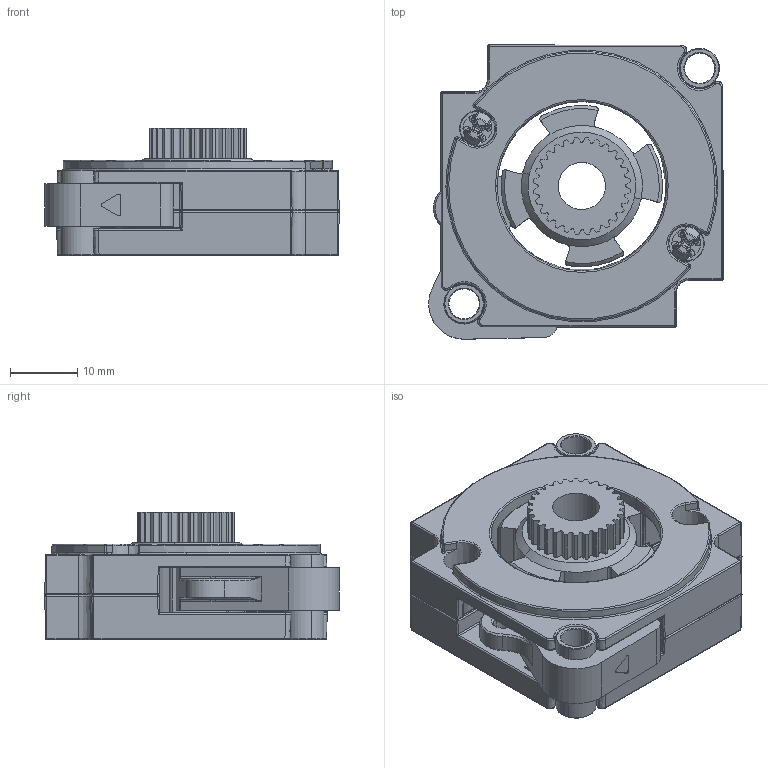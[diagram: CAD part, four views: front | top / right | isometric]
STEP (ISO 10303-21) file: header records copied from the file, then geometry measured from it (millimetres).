
FILE_DESCRIPTION (( 'STEP AP214' ), '1' );
FILE_NAME ('217-6048-CCW-20171201.STEP', '2017-12-01T16:28:56', ( '' ), ( '' ), 'SwSTEP 2.0', 'SolidWorks 2017', '' );
FILE_SCHEMA (( 'AUTOMOTIVE_DESIGN' ));
Length unit declared in the file: millimetre
Products named in the file (7): 217-6048-CCW-20171201; 217-6048-011 Rev9; 217-6048-009 Rev4; 217-6048-001 Rev19; 217-6048-003 Rev23; 217-4783-006 Rev3; 217-6048-010 Rev10
Assembly tree (7 placements, depth 2):
  217-6048-CCW-20171201
    217-6048-010 Rev10
    217-6048-011 Rev9
    217-4783-006 Rev3  x2
    217-6048-001 Rev19
    217-6048-003 Rev23
    217-6048-009 Rev4
Bounding box: 43.73 x 43.75 x 18.9 mm (x, y, z)
Volume: 12317.9 mm3; surface area: 14201.2 mm2
Topology: 7 solids, 7 shells, 2064 faces, 4754 edges, 2659 vertices
Faces by surface type: cylinder 602, bspline 549, plane 273, sphere 256, torus 237, cone 147
Entity records: 77838 total; most frequent: CARTESIAN_POINT 35383, ORIENTED_EDGE 9290, DIRECTION 8554, EDGE_CURVE 4645, AXIS2_PLACEMENT_3D 3645, VERTEX_POINT 2629, CIRCLE 2134, EDGE_LOOP 2096
